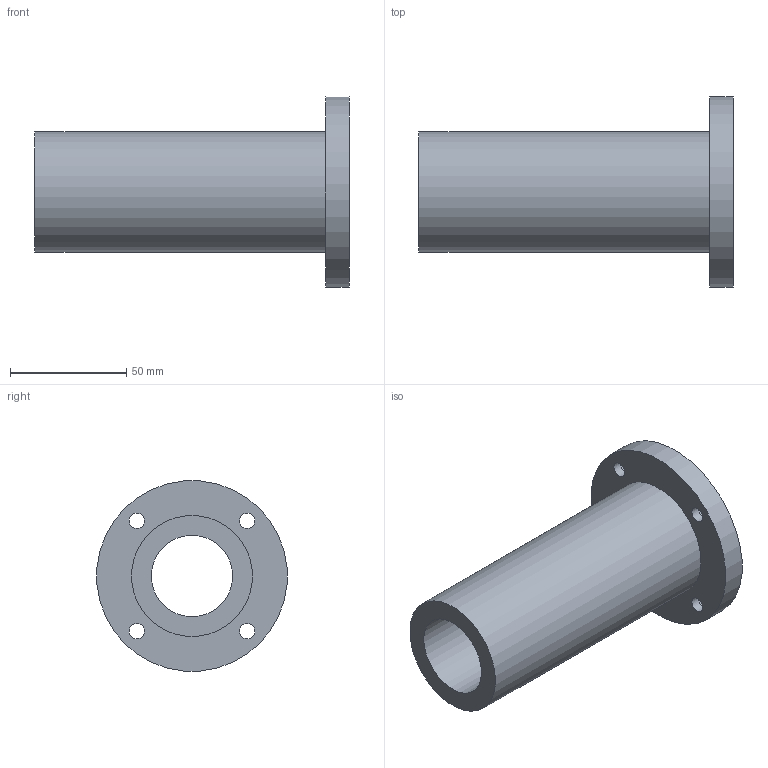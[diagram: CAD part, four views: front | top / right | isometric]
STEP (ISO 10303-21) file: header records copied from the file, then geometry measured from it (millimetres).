
FILE_DESCRIPTION(/* description */ (''),/* implementation_level */ '2;1');
FILE_NAME(/* name */ 'LMF35LUU',/* time_stamp */ '2019-07-03T10:03:09+02:00',/* author */ ('VĂ©gh MĂˇtĂ©'),/* organization */ ('Bearing Kft'),/* preprocessor_version */ 'ST-DEVELOPER v16.7',/* originating_system */ 'DEX',/* authorisation */ $);
FILE_SCHEMA (('AUTOMOTIVE_DESIGN {1 0 10303 214 3 1 1}'));
Length unit declared in the file: millimetre
Products named in the file (1): LMF35LUU
Bounding box: 135 x 81.69 x 81.69 mm (x, y, z)
Volume: 185527.1 mm3; surface area: 47408.1 mm2
Topology: 1 solids, 1 shells, 329 faces, 828 edges, 552 vertices
Faces by surface type: plane 255, bspline 61, cylinder 13
Full cylindrical faces by diameter (mm): 6.6 x4, 11 x4, 35 x1, 52 x1, 82 x1
Entity records: 12924 total; most frequent: CARTESIAN_POINT 5391, ORIENTED_EDGE 1632, DIRECTION 1258, EDGE_CURVE 816, LINE 668, VECTOR 668, VERTEX_POINT 552, EDGE_LOOP 402
